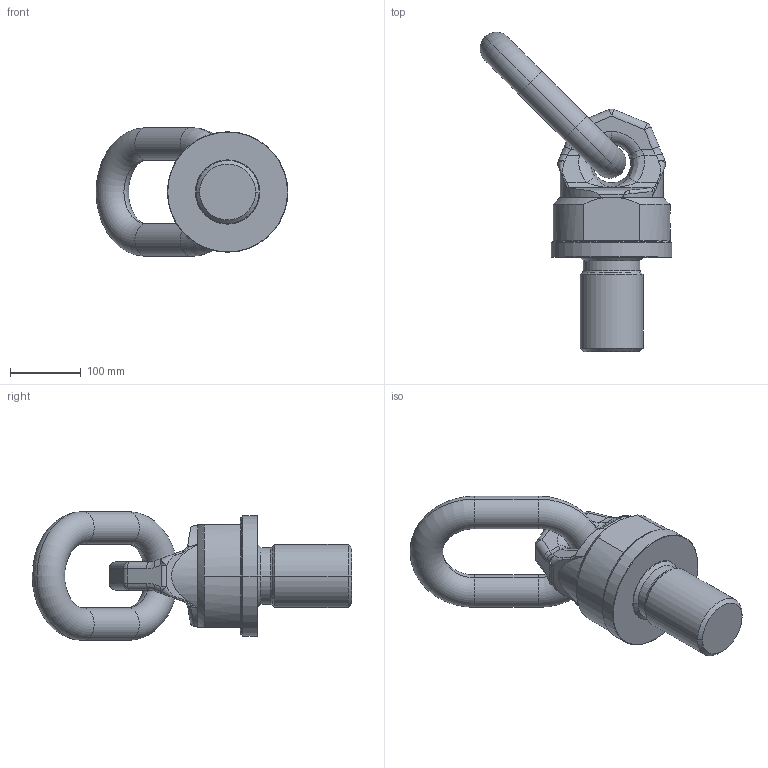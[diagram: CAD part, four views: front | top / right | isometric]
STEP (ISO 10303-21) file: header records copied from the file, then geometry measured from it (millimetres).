
FILE_DESCRIPTION((''),'2;1');
FILE_NAME('001-M33276-P96-45_ASM','2011-05-11T',('Roland.Jakubetz'),(''),'PRO/ENGINEER BY PARAMETRIC TECHNOLOGY CORPORATION, 2010140','PRO/ENGINEER BY PARAMETRIC TECHNOLOGY CORPORATION, 2010140','');
FILE_SCHEMA(('CONFIG_CONTROL_DESIGN'));
Length unit declared in the file: millimetre
Products named in the file (4): 001-M33276-P96; 001-M31356-P91; 001-M31356-P92; 001-M33276-P96-45_ASM
Assembly tree (3 placements, depth 2):
  001-M33276-P96-45_ASM
    001-M33276-P96
    001-M31356-P91
    001-M31356-P92
Bounding box: 270.55 x 450.65 x 182 mm (x, y, z)
Volume: 4281210.8 mm3; surface area: 279770.7 mm2
Topology: 3 solids, 3 shells, 726 faces, 1966 edges, 1271 vertices
Faces by surface type: plane 587, cylinder 50, bspline 42, cone 20, torus 14, sphere 13
Entity records: 24075 total; most frequent: CARTESIAN_POINT 6000, ORIENTED_EDGE 3932, DIRECTION 3376, EDGE_CURVE 1966, VECTOR 1706, LINE 1706, VERTEX_POINT 1271, AXIS2_PLACEMENT_3D 835
